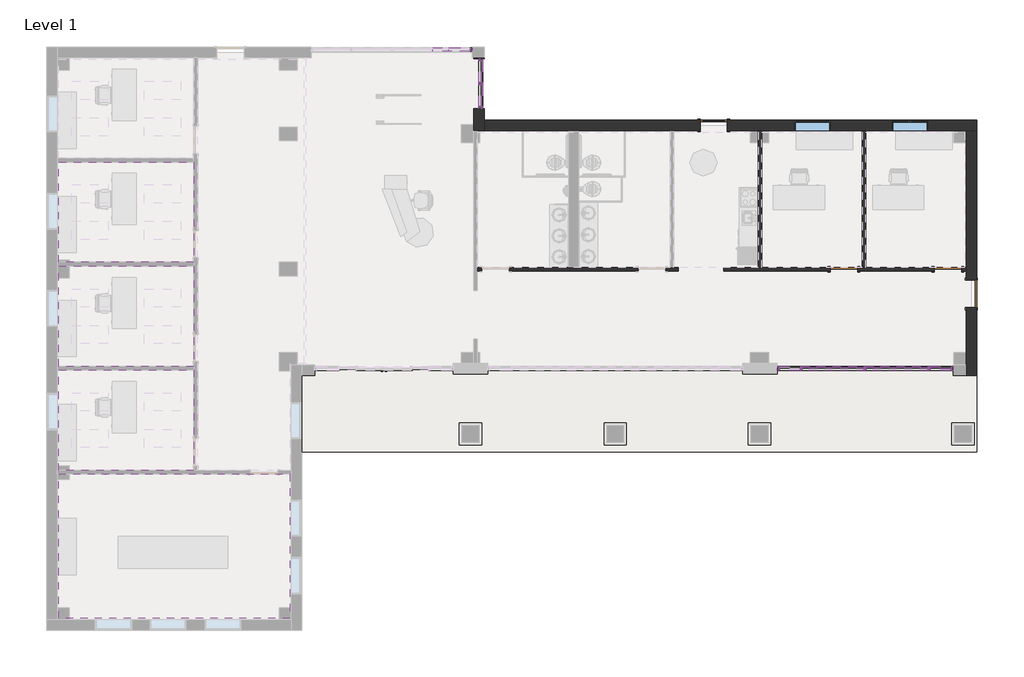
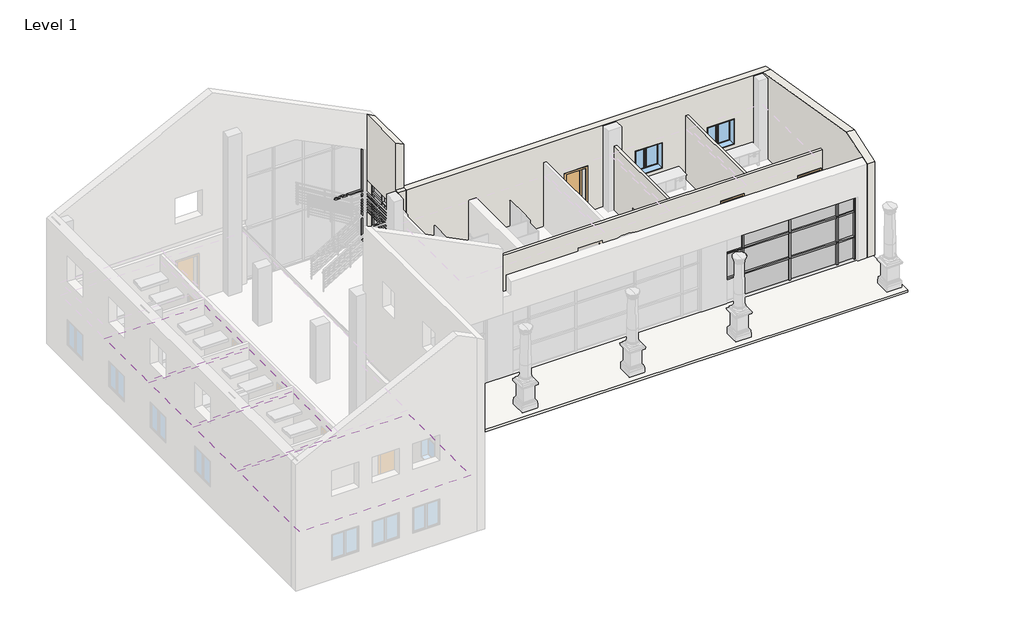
# One storey, part 3 of 8: 43 members, 14 plates, 6 walls, 4 coverings, 4 doors, 2 windows, 1 slab.
"""IFC4 building model written with IfcOpenShell, lengths in millimetres."""

from ifc_helpers import new_model, si_unit, point, frame, origin, origin_with_axes, place, context, project, spatial, polyline, ellipse_curve, trimmed, outline, extrude, faceted_brep, transform, mapped, element, save
from ifc_brep_helpers import plane_surface, extruded_surface, advanced_brep
from components import door_cc5399a4, door_88503111, door_14e9a3b2, member_a715cb85, member_2b49869a, member_4f1c84db, member_c7c5a8a0, member_a43dcf29, member_c4de40ee, member_75074519, member_13dc6413, member_3374d9b6, member_c17f1be2, member_b955a9e9, member_f0fea5a5, member_6e77e263, member_ee409385, member_47bfaf8a, member_ba1b3d85, member_3a0a7659, member_7b995701, member_54c8a699, member_3ba4cfb8, system_panel_glazed_93fe6fa7, system_panel_glazed_6ce5e085, system_panel_glazed_7b5ce646, system_panel_glazed_6c402c5f, system_panel_glazed_28aac04d, system_panel_glazed_b46f0795, system_panel_glazed_65d20654, system_panel_glazed_bd012a69, system_panel_solid_70661cca, window_75435c65

model = new_model("IFC4")

# Units and contexts
model_context = context("Model", 3, world=origin())
ifc_project = project(units=[si_unit("LENGTHUNIT", "METRE", prefix="MILLI")], contexts=[model_context])

# Site, building, storey
site = spatial("IfcSite", under=ifc_project)
building = spatial("IfcBuilding", under=site)
storey = spatial("IfcBuildingStorey", under=building, Name="Level 1", Elevation=0.0)

# Coverings
placement = place(None, origin())
element("IfcCovering", 1, ObjectType="2' x 4' ACT System", at=placement, inside=storey, context=model_context, shape_type="SweptSolid", body=[
    extrude(outline(polyline([(-13532.9016552, 7087.3730424), (-9011.7016552, 7087.3730424), (-9011.7016552, 3729.8105424), (-13532.9016552, 3729.8105424), (-13532.9016552, 7087.3730424)]), holes=[polyline([(-11881.9016552, 5713.3917924), (-11881.9016552, 6322.9917924), (-13101.1016552, 6322.9917924), (-13101.1016552, 5713.3917924), (-11881.9016552, 5713.3917924)]), polyline([(-10662.7016552, 5713.3917924), (-9443.5016552, 5713.3917924), (-9443.5016552, 6322.9917924), (-10662.7016552, 6322.9917924), (-10662.7016552, 5713.3917924)]), polyline([(-10662.7016552, 4494.1917924), (-9443.5016552, 4494.1917924), (-9443.5016552, 5103.7917924), (-10662.7016552, 5103.7917924), (-10662.7016552, 4494.1917924)]), polyline([(-11881.9016552, 5103.7917924), (-13101.1016552, 5103.7917924), (-13101.1016552, 4494.1917924), (-11881.9016552, 4494.1917924), (-11881.9016552, 5103.7917924)])]), frame((0.0, 0.0, 2438.4), z_axis=(0.0, 0.0, 1.0), x_axis=(1.0, 0.0, 0.0)), (0.0, 0.0, 1.0), 57.15),
])
element("IfcCovering", 2, ObjectType="2' x 4' ACT System", at=placement, inside=storey, context=model_context, shape_type="SweptSolid", body=[
    extrude(outline(polyline([(-13532.9016552, 3605.9855424), (-9011.7016552, 3605.9855424), (-9011.7016552, 248.4230424), (-13532.9016552, 248.4230424), (-13532.9016552, 3605.9855424)]), holes=[polyline([(-11881.9016552, 2232.0042924), (-11881.9016552, 2841.6042924), (-13101.1016552, 2841.6042924), (-13101.1016552, 2232.0042924), (-11881.9016552, 2232.0042924)]), polyline([(-10662.7016552, 2232.0042924), (-9443.5016552, 2232.0042924), (-9443.5016552, 2841.6042924), (-10662.7016552, 2841.6042924), (-10662.7016552, 2232.0042924)]), polyline([(-10662.7016552, 1012.8042924), (-9443.5016552, 1012.8042924), (-9443.5016552, 1622.4042924), (-10662.7016552, 1622.4042924), (-10662.7016552, 1012.8042924)]), polyline([(-11881.9016552, 1622.4042924), (-13101.1016552, 1622.4042924), (-13101.1016552, 1012.8042924), (-11881.9016552, 1012.8042924), (-11881.9016552, 1622.4042924)])]), frame((0.0, 0.0, 2438.4), z_axis=(0.0, 0.0, 1.0), x_axis=(1.0, 0.0, 0.0)), (0.0, 0.0, 1.0), 57.15),
])
element("IfcCovering", 3, ObjectType="2' x 4' ACT System", at=placement, inside=storey, context=model_context, shape_type="SweptSolid", body=[
    extrude(outline(polyline([(-13532.9016552, 124.5980424), (-9011.7016552, 124.5980424), (-9011.7016552, -3232.9644576), (-13532.9016552, -3232.9644576), (-13532.9016552, 124.5980424)]), holes=[polyline([(-11881.9016552, -1249.3832076), (-11881.9016552, -639.7832076), (-13101.1016552, -639.7832076), (-13101.1016552, -1249.3832076), (-11881.9016552, -1249.3832076)]), polyline([(-10662.7016552, -1249.3832076), (-9443.5016552, -1249.3832076), (-9443.5016552, -639.7832076), (-10662.7016552, -639.7832076), (-10662.7016552, -1249.3832076)]), polyline([(-10662.7016552, -2468.5832076), (-9443.5016552, -2468.5832076), (-9443.5016552, -1858.9832076), (-10662.7016552, -1858.9832076), (-10662.7016552, -2468.5832076)]), polyline([(-11881.9016552, -1858.9832076), (-13101.1016552, -1858.9832076), (-13101.1016552, -2468.5832076), (-11881.9016552, -2468.5832076), (-11881.9016552, -1858.9832076)])]), frame((0.0, 0.0, 2438.4), z_axis=(0.0, 0.0, 1.0), x_axis=(1.0, 0.0, 0.0)), (0.0, 0.0, 1.0), 57.15),
])
element("IfcCovering", 4, ObjectType="5/8\" GWB on Mtl. Stud", at=placement, inside=storey, context=model_context, shape_type="SweptSolid", body=[
    extrude(outline(polyline([(-13532.9016552, -3356.7894576), (-5804.9516552, -3356.7894576), (-5804.9516552, -8182.7894576), (-13532.9016552, -8182.7894576), (-13532.9016552, -3356.7894576)])), frame((0.0, 0.0, 2438.4), z_axis=(0.0, 0.0, 1.0), x_axis=(1.0, 0.0, 0.0)), (0.0, 0.0, 1.0), 107.95),
])

# Doors
door_shape = door_cc5399a4(model_context)
element("IfcDoor", 5, ObjectType="Single-Flush : 36\" x 84\"", at=placement, inside=storey, context=model_context, shape_type="MappedRepresentation", body=[
    mapped(door_shape, transform((16977.2608448, 2672.5355424, 0.0), x_axis=(0.0, 1.0, 0.0), y_axis=(-1.0, 0.0, 0.0), z_axis=(0.0, 0.0, 1.0))),
])
door_2_shape = door_88503111(model_context)
element("IfcDoor", 6, ObjectType="Single-Flush : 36\" x 84\"", at=placement, inside=storey, context=model_context, shape_type="MappedRepresentation", body=[
    mapped(door_2_shape, transform((16191.4483448, 3496.4480424, 0.0), x_axis=(1.0, 0.0, 0.0), y_axis=(0.0, 1.0, 0.0), z_axis=(0.0, 0.0, 1.0))),
])
element("IfcDoor", 7, ObjectType="Single-Flush : 36\" x 84\"", at=placement, inside=storey, context=model_context, shape_type="MappedRepresentation", body=[
    mapped(door_2_shape, transform((12714.8233448, 3496.4480424, 0.0), x_axis=(1.0, 0.0, 0.0), y_axis=(0.0, 1.0, 0.0), z_axis=(0.0, 0.0, 1.0))),
])
door_3_shape = door_14e9a3b2(model_context)
element("IfcDoor", 8, ObjectType="Single-Glass 1 : 36\" x 84\"", at=placement, inside=storey, context=model_context, shape_type="MappedRepresentation", body=[
    mapped(door_3_shape, transform((8365.0733448, 8306.5730424, 0.0), x_axis=(1.0, 0.0, 0.0), y_axis=(0.0, 1.0, 0.0), z_axis=(0.0, 0.0, 1.0))),
])

# Members
member_shape = member_a715cb85(model_context)
element("IfcMember", 9, ObjectType="Rectangular Mullion : 2.5\" x 5\" Rectangular", at=placement, inside=storey, context=model_context, shape_type="MappedRepresentation", body=[
    mapped(member_shape, transform((10519.3108448, 175.3980424, 0.0), x_axis=(1.0, 0.0, 0.0), y_axis=(0.0, -1.0, 0.0), z_axis=(0.0, 0.0, -1.0))),
])
element("IfcMember", 10, ObjectType="Rectangular Mullion : 2.5\" x 5\" Rectangular", at=placement, inside=storey, context=model_context, shape_type="MappedRepresentation", body=[
    mapped(member_shape, transform((11281.3108448, 175.3980424, 0.0), x_axis=(1.0, 0.0, 0.0), y_axis=(0.0, -1.0, 0.0), z_axis=(0.0, 0.0, -1.0))),
])
element("IfcMember", 11, ObjectType="Rectangular Mullion : 2.5\" x 5\" Rectangular", at=placement, inside=storey, context=model_context, shape_type="MappedRepresentation", body=[
    mapped(member_shape, transform((13414.9108448, 175.3980424, 0.0), x_axis=(1.0, 0.0, 0.0), y_axis=(0.0, -1.0, 0.0), z_axis=(0.0, 0.0, -1.0))),
])
element("IfcMember", 12, ObjectType="Rectangular Mullion : 2.5\" x 5\" Rectangular", at=placement, inside=storey, context=model_context, shape_type="MappedRepresentation", body=[
    mapped(member_shape, transform((15548.5108448, 175.3980424, 0.0), x_axis=(1.0, 0.0, 0.0), y_axis=(0.0, -1.0, 0.0), z_axis=(0.0, 0.0, -1.0))),
])
member_2_shape = member_2b49869a(model_context)
element("IfcMember", 13, ObjectType="Rectangular Mullion : 2.5\" x 5\" Rectangular", at=placement, inside=storey, context=model_context, shape_type="MappedRepresentation", body=[
    mapped(member_2_shape, transform((10519.3108448, 175.3980424, 1066.8), x_axis=(1.0, 0.0, 0.0), y_axis=(0.0, -1.0, 0.0), z_axis=(0.0, 0.0, -1.0))),
])
element("IfcMember", 14, ObjectType="Rectangular Mullion : 2.5\" x 5\" Rectangular", at=placement, inside=storey, context=model_context, shape_type="MappedRepresentation", body=[
    mapped(member_2_shape, transform((11281.3108448, 175.3980424, 1066.8), x_axis=(1.0, 0.0, 0.0), y_axis=(0.0, -1.0, 0.0), z_axis=(0.0, 0.0, -1.0))),
])
element("IfcMember", 15, ObjectType="Rectangular Mullion : 2.5\" x 5\" Rectangular", at=placement, inside=storey, context=model_context, shape_type="MappedRepresentation", body=[
    mapped(member_2_shape, transform((13414.9108448, 175.3980424, 1066.8), x_axis=(1.0, 0.0, 0.0), y_axis=(0.0, -1.0, 0.0), z_axis=(0.0, 0.0, -1.0))),
])
element("IfcMember", 16, ObjectType="Rectangular Mullion : 2.5\" x 5\" Rectangular", at=placement, inside=storey, context=model_context, shape_type="MappedRepresentation", body=[
    mapped(member_2_shape, transform((15548.5108448, 175.3980424, 1066.8), x_axis=(1.0, 0.0, 0.0), y_axis=(0.0, -1.0, 0.0), z_axis=(0.0, 0.0, -1.0))),
])
member_3_shape = member_4f1c84db(model_context)
element("IfcMember", 17, ObjectType="Rectangular Mullion : 2.5\" x 5\" Rectangular", at=placement, inside=storey, context=model_context, shape_type="MappedRepresentation", body=[
    mapped(member_3_shape, transform((15516.7608448, 175.3980424, 2286.0), x_axis=(0.0, 0.0, 1.0), y_axis=(0.0, -1.0, 0.0), z_axis=(1.0, 0.0, 0.0))),
])
element("IfcMember", 18, ObjectType="Rectangular Mullion : 2.5\" x 5\" Rectangular", at=placement, inside=storey, context=model_context, shape_type="MappedRepresentation", body=[
    mapped(member_3_shape, transform((13383.1608448, 175.3980424, 2286.0), x_axis=(0.0, 0.0, 1.0), y_axis=(0.0, -1.0, 0.0), z_axis=(1.0, 0.0, 0.0))),
])
element("IfcMember", 19, ObjectType="Rectangular Mullion : 2.5\" x 5\" Rectangular", at=placement, inside=storey, context=model_context, shape_type="MappedRepresentation", body=[
    mapped(member_3_shape, transform((13383.1608448, 175.3980424, 1066.8), x_axis=(0.0, 0.0, 1.0), y_axis=(0.0, -1.0, 0.0), z_axis=(1.0, 0.0, 0.0))),
])
element("IfcMember", 20, ObjectType="Rectangular Mullion : 2.5\" x 5\" Rectangular", at=placement, inside=storey, context=model_context, shape_type="MappedRepresentation", body=[
    mapped(member_3_shape, transform((15516.7608448, 175.3980424, 1066.8), x_axis=(0.0, 0.0, 1.0), y_axis=(0.0, -1.0, 0.0), z_axis=(1.0, 0.0, 0.0))),
])
member_4_shape = member_c7c5a8a0(model_context)
element("IfcMember", 21, ObjectType="Rectangular Mullion : 2.5\" x 5\" Rectangular", at=placement, inside=storey, context=model_context, shape_type="MappedRepresentation", body=[
    mapped(member_4_shape, transform((11249.5608448, 175.3980424, 2286.0), x_axis=(0.0, 0.0, 1.0), y_axis=(0.0, -1.0, 0.0), z_axis=(1.0, 0.0, 0.0))),
])
element("IfcMember", 22, ObjectType="Rectangular Mullion : 2.5\" x 5\" Rectangular", at=placement, inside=storey, context=model_context, shape_type="MappedRepresentation", body=[
    mapped(member_4_shape, transform((11249.5608448, 175.3980424, 1066.8), x_axis=(0.0, 0.0, 1.0), y_axis=(0.0, -1.0, 0.0), z_axis=(1.0, 0.0, 0.0))),
])
member_5_shape = member_a43dcf29(model_context)
element("IfcMember", 23, ObjectType="Rectangular Mullion : 2.5\" x 5\" Rectangular", at=placement, inside=storey, context=model_context, shape_type="MappedRepresentation", body=[
    mapped(member_5_shape, transform((16304.1608448, 175.3980424, 2286.0), x_axis=(0.0, 0.0, 1.0), y_axis=(0.0, -1.0, 0.0), z_axis=(1.0, 0.0, 0.0))),
])
element("IfcMember", 24, ObjectType="Rectangular Mullion : 2.5\" x 5\" Rectangular", at=placement, inside=storey, context=model_context, shape_type="MappedRepresentation", body=[
    mapped(member_5_shape, transform((16304.1608448, 175.3980424, 1066.8), x_axis=(0.0, 0.0, 1.0), y_axis=(0.0, -1.0, 0.0), z_axis=(1.0, 0.0, 0.0))),
])
member_6_shape = member_c4de40ee(model_context)
element("IfcMember", 25, ObjectType="Rectangular Mullion : 2.5\" x 5\" Rectangular", at=placement, inside=storey, context=model_context, shape_type="MappedRepresentation", body=[
    mapped(member_6_shape, transform((16367.6608448, 175.3980424, 0.0), x_axis=(1.0, 0.0, 0.0), y_axis=(0.0, -1.0, 0.0), z_axis=(0.0, 0.0, -1.0))),
])
member_7_shape = member_75074519(model_context)
element("IfcMember", 26, ObjectType="Rectangular Mullion : 2.5\" x 5\" Rectangular", at=placement, inside=storey, context=model_context, shape_type="MappedRepresentation", body=[
    mapped(member_7_shape, transform((16367.6608448, 175.3980424, 1066.8), x_axis=(1.0, 0.0, 0.0), y_axis=(0.0, -1.0, 0.0), z_axis=(0.0, 0.0, -1.0))),
])
element("IfcMember", 27, ObjectType="Rectangular Mullion : 2.5\" x 5\" Rectangular", at=placement, inside=storey, context=model_context, shape_type="MappedRepresentation", body=[
    mapped(member_4_shape, transform((10519.3108448, 175.3980424, 2286.0), x_axis=(1.0, 0.0, 0.0), y_axis=(0.0, -1.0, 0.0), z_axis=(0.0, 0.0, -1.0))),
])
element("IfcMember", 28, ObjectType="Rectangular Mullion : 2.5\" x 5\" Rectangular", at=placement, inside=storey, context=model_context, shape_type="MappedRepresentation", body=[
    mapped(member_4_shape, transform((11281.3108448, 175.3980424, 2286.0), x_axis=(1.0, 0.0, 0.0), y_axis=(0.0, -1.0, 0.0), z_axis=(0.0, 0.0, -1.0))),
])
element("IfcMember", 29, ObjectType="Rectangular Mullion : 2.5\" x 5\" Rectangular", at=placement, inside=storey, context=model_context, shape_type="MappedRepresentation", body=[
    mapped(member_4_shape, transform((13414.9108448, 175.3980424, 2286.0), x_axis=(1.0, 0.0, 0.0), y_axis=(0.0, -1.0, 0.0), z_axis=(0.0, 0.0, -1.0))),
])
element("IfcMember", 30, ObjectType="Rectangular Mullion : 2.5\" x 5\" Rectangular", at=placement, inside=storey, context=model_context, shape_type="MappedRepresentation", body=[
    mapped(member_4_shape, transform((15548.5108448, 175.3980424, 2286.0), x_axis=(1.0, 0.0, 0.0), y_axis=(0.0, -1.0, 0.0), z_axis=(0.0, 0.0, -1.0))),
])
member_8_shape = member_13dc6413(model_context)
element("IfcMember", 31, ObjectType="Rectangular Mullion : 2.5\" x 5\" Rectangular", at=placement, inside=storey, context=model_context, shape_type="MappedRepresentation", body=[
    mapped(member_8_shape, transform((11281.3108448, 175.3980424, 3048.0), x_axis=(0.0, 0.0, 1.0), y_axis=(0.0, -1.0, 0.0), z_axis=(1.0, 0.0, 0.0))),
])
member_9_shape = member_3374d9b6(model_context)
element("IfcMember", 32, ObjectType="Rectangular Mullion : 2.5\" x 5\" Rectangular", at=placement, inside=storey, context=model_context, shape_type="MappedRepresentation", body=[
    mapped(member_9_shape, transform((15548.5108448, 175.3980424, 3048.0), x_axis=(0.0, 0.0, 1.0), y_axis=(0.0, -1.0, 0.0), z_axis=(1.0, 0.0, 0.0))),
])
element("IfcMember", 33, ObjectType="Rectangular Mullion : 2.5\" x 5\" Rectangular", at=placement, inside=storey, context=model_context, shape_type="MappedRepresentation", body=[
    mapped(member_9_shape, transform((13414.9108448, 175.3980424, 3048.0), x_axis=(0.0, 0.0, 1.0), y_axis=(0.0, -1.0, 0.0), z_axis=(1.0, 0.0, 0.0))),
])
member_10_shape = member_c17f1be2(model_context)
element("IfcMember", 34, ObjectType="Rectangular Mullion : 2.5\" x 5\" Rectangular", at=placement, inside=storey, context=model_context, shape_type="MappedRepresentation", body=[
    mapped(member_10_shape, transform((16367.6608448, 175.3980424, 3048.0), x_axis=(0.0, 0.0, 1.0), y_axis=(0.0, -1.0, 0.0), z_axis=(1.0, 0.0, 0.0))),
])
member_11_shape = member_b955a9e9(model_context)
element("IfcMember", 35, ObjectType="Rectangular Mullion : 2.5\" x 5\" Rectangular", at=placement, inside=storey, context=model_context, shape_type="MappedRepresentation", body=[
    mapped(member_11_shape, transform((16367.6608448, 175.3980424, 2286.0), x_axis=(1.0, 0.0, 0.0), y_axis=(0.0, -1.0, 0.0), z_axis=(0.0, 0.0, -1.0))),
])
member_12_shape = member_f0fea5a5(model_context)
element("IfcMember", 36, ObjectType="Rectangular Mullion : 2.5\" x 5\" Rectangular", at=placement, inside=storey, context=model_context, shape_type="MappedRepresentation", body=[
    mapped(member_12_shape, transform((581.5608448, 9701.9855424, 0.0), x_axis=(0.0, -1.0, 0.0), y_axis=(-1.0, 0.0, 0.0), z_axis=(0.0, 0.0, -1.0))),
])
member_13_shape = member_6e77e263(model_context)
element("IfcMember", 37, ObjectType="Rectangular Mullion : 2.5\" x 5\" Rectangular", at=placement, inside=storey, context=model_context, shape_type="MappedRepresentation", body=[
    mapped(member_13_shape, transform((581.5608448, 9701.9855424, 2438.4), x_axis=(0.0, -1.0, 0.0), y_axis=(-1.0, 0.0, 0.0), z_axis=(0.0, 0.0, -1.0))),
])
member_14_shape = member_ee409385(model_context)
element("IfcMember", 38, ObjectType="Rectangular Mullion : 2.5\" x 5\" Rectangular", at=placement, inside=storey, context=model_context, shape_type="MappedRepresentation", body=[
    mapped(member_14_shape, transform((291.0483448, 10846.5730424, 0.0), x_axis=(1.0, 0.0, 0.0), y_axis=(0.0, -1.0, 0.0), z_axis=(0.0, 0.0, -1.0))),
])
element("IfcMember", 39, ObjectType="Rectangular Mullion : 2.5\" x 5\" Rectangular", at=placement, inside=storey, context=model_context, shape_type="MappedRepresentation", body=[
    mapped(member_14_shape, transform((581.5608448, 8863.7855424, 0.0), x_axis=(0.0, -1.0, 0.0), y_axis=(-1.0, 0.0, 0.0), z_axis=(0.0, 0.0, -1.0))),
])
member_15_shape = member_47bfaf8a(model_context)
element("IfcMember", 40, ObjectType="Rectangular Mullion : 2.5\" x 5\" Rectangular", at=placement, inside=storey, context=model_context, shape_type="MappedRepresentation", body=[
    mapped(member_15_shape, transform((581.5608448, 8863.7855424, 2438.4), x_axis=(0.0, -1.0, 0.0), y_axis=(-1.0, 0.0, 0.0), z_axis=(0.0, 0.0, -1.0))),
])
element("IfcMember", 41, ObjectType="Rectangular Mullion : 2.5\" x 5\" Rectangular", at=placement, inside=storey, context=model_context, shape_type="MappedRepresentation", body=[
    mapped(member_15_shape, transform((581.5608448, 10540.1855424, 3048.0), x_axis=(0.0, 1.0, 0.0), y_axis=(-1.0, 0.0, 0.0), z_axis=(0.0, 0.0, 1.0))),
])
element("IfcMember", 42, ObjectType="Rectangular Mullion : 2.5\" x 5\" Rectangular", at=placement, inside=storey, context=model_context, shape_type="MappedRepresentation", body=[
    mapped(member_14_shape, transform((581.5608448, 10540.1855424, 2438.4), x_axis=(0.0, 1.0, 0.0), y_axis=(-1.0, 0.0, 0.0), z_axis=(0.0, 0.0, 1.0))),
])
member_16_shape = member_ba1b3d85(model_context)
element("IfcMember", 43, ObjectType="Rectangular Mullion : 2.5\" x 5\" Rectangular", at=placement, inside=storey, context=model_context, shape_type="MappedRepresentation", body=[
    mapped(member_16_shape, transform((227.5483448, 10846.5730424, 2438.4), x_axis=(0.0, 0.0, 1.0), y_axis=(0.0, -1.0, 0.0), z_axis=(1.0, 0.0, 0.0))),
])
member_17_shape = member_3a0a7659(model_context)
element("IfcMember", 44, ObjectType="Rectangular Mullion : 2.5\" x 5\" Rectangular", at=placement, inside=storey, context=model_context, shape_type="MappedRepresentation", body=[
    mapped(member_17_shape, transform((581.5608448, 8927.2855424, 3048.0), x_axis=(0.0, 0.0, 1.0), y_axis=(-1.0, 0.0, 0.0), z_axis=(0.0, -1.0, 0.0))),
])
element("IfcMember", 45, ObjectType="Rectangular Mullion : 2.5\" x 5\" Rectangular", at=placement, inside=storey, context=model_context, shape_type="MappedRepresentation", body=[
    mapped(member_17_shape, transform((581.5608448, 9733.7355424, 3048.0), x_axis=(0.0, 0.0, 1.0), y_axis=(-1.0, 0.0, 0.0), z_axis=(0.0, -1.0, 0.0))),
])
element("IfcMember", 46, ObjectType="Rectangular Mullion : 2.5\" x 5\" Rectangular", at=placement, inside=storey, context=model_context, shape_type="MappedRepresentation", body=[
    mapped(member_17_shape, transform((581.5608448, 10476.6855424, 0.0), x_axis=(0.0, 0.0, -1.0), y_axis=(-1.0, 0.0, 0.0), z_axis=(0.0, 1.0, 0.0))),
])
element("IfcMember", 47, ObjectType="Rectangular Mullion : 2.5\" x 5\" Rectangular", at=placement, inside=storey, context=model_context, shape_type="MappedRepresentation", body=[
    mapped(member_17_shape, transform((581.5608448, 9670.2355424, 0.0), x_axis=(0.0, 0.0, -1.0), y_axis=(-1.0, 0.0, 0.0), z_axis=(0.0, 1.0, 0.0))),
])
member_18_shape = member_7b995701(model_context)
element("IfcMember", 48, ObjectType="Rectangular Mullion : 2.5\" x 5\" Rectangular", at=placement, inside=storey, context=model_context, shape_type="MappedRepresentation", body=[
    mapped(member_18_shape, transform((581.5608448, 9733.7355424, 2438.4), x_axis=(0.0, 0.0, 1.0), y_axis=(-1.0, 0.0, 0.0), z_axis=(0.0, -1.0, 0.0))),
])
element("IfcMember", 49, ObjectType="Rectangular Mullion : 2.5\" x 5\" Rectangular", at=placement, inside=storey, context=model_context, shape_type="MappedRepresentation", body=[
    mapped(member_18_shape, transform((581.5608448, 8927.2855424, 2438.4), x_axis=(0.0, 0.0, 1.0), y_axis=(-1.0, 0.0, 0.0), z_axis=(0.0, -1.0, 0.0))),
])
member_19_shape = member_54c8a699(model_context)
element("IfcMember", 50, ObjectType="Rectangular Mullion : 2.5\" x 5\" Rectangular", at=placement, inside=storey, context=model_context, shape_type="MappedRepresentation", body=[
    mapped(member_19_shape, transform((291.0483448, 10846.5730424, 4500.0662011), x_axis=(0.44721359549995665, 0.0, 0.8944271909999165), y_axis=(0.0, -1.0, 0.0), z_axis=(0.8944271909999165, 0.0, -0.44721359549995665))),
])
member_20_shape = member_3ba4cfb8(model_context)
element("IfcMember", 51, ObjectType="Rectangular Mullion : 2.5\" x 5\" Rectangular", at=placement, inside=storey, context=model_context, shape_type="MappedRepresentation", body=[
    mapped(member_20_shape, transform((291.0483448, 10846.5730424, 2438.4), x_axis=(1.0, 0.0, 0.0), y_axis=(0.0, -1.0, 0.0), z_axis=(0.0, 0.0, -1.0))),
])

# Plates
system_panel_glazed_shape = system_panel_glazed_93fe6fa7(model_context)
element("IfcPlate", 52, ObjectType="System Panel : Glazed", at=placement, inside=storey, context=model_context, shape_type="MappedRepresentation", body=[
    mapped(system_panel_glazed_shape, transform((12348.1108448, 175.3980424, 0.0), x_axis=(1.0, 0.0, 0.0), y_axis=(0.0, 1.0, 0.0), z_axis=(0.0, 0.0, 1.0))),
])
element("IfcPlate", 53, ObjectType="System Panel : Glazed", at=placement, inside=storey, context=model_context, shape_type="MappedRepresentation", body=[
    mapped(system_panel_glazed_shape, transform((14481.7108448, 175.3980424, 0.0), x_axis=(1.0, 0.0, 0.0), y_axis=(0.0, 1.0, 0.0), z_axis=(0.0, 0.0, 1.0))),
])
system_panel_glazed_2_shape = system_panel_glazed_6ce5e085(model_context)
element("IfcPlate", 54, ObjectType="System Panel : Glazed", at=placement, inside=storey, context=model_context, shape_type="MappedRepresentation", body=[
    mapped(system_panel_glazed_2_shape, transform((12348.1108448, 175.3980424, 1098.55), x_axis=(1.0, 0.0, 0.0), y_axis=(0.0, 1.0, 0.0), z_axis=(0.0, 0.0, 1.0))),
])
element("IfcPlate", 55, ObjectType="System Panel : Glazed", at=placement, inside=storey, context=model_context, shape_type="MappedRepresentation", body=[
    mapped(system_panel_glazed_2_shape, transform((14481.7108448, 175.3980424, 1098.55), x_axis=(1.0, 0.0, 0.0), y_axis=(0.0, 1.0, 0.0), z_axis=(0.0, 0.0, 1.0))),
])
system_panel_glazed_3_shape = system_panel_glazed_7b5ce646(model_context)
element("IfcPlate", 56, ObjectType="System Panel : Glazed", at=placement, inside=storey, context=model_context, shape_type="MappedRepresentation", body=[
    mapped(system_panel_glazed_3_shape, transform((10900.3108448, 175.3980424, 1098.55), x_axis=(1.0, 0.0, 0.0), y_axis=(0.0, 1.0, 0.0), z_axis=(0.0, 0.0, 1.0))),
])
system_panel_glazed_4_shape = system_panel_glazed_6c402c5f(model_context)
element("IfcPlate", 57, ObjectType="System Panel : Glazed", at=placement, inside=storey, context=model_context, shape_type="MappedRepresentation", body=[
    mapped(system_panel_glazed_4_shape, transform((15942.2108448, 175.3980424, 0.0), x_axis=(1.0, 0.0, 0.0), y_axis=(0.0, 1.0, 0.0), z_axis=(0.0, 0.0, 1.0))),
])
system_panel_glazed_5_shape = system_panel_glazed_28aac04d(model_context)
element("IfcPlate", 58, ObjectType="System Panel : Glazed", at=placement, inside=storey, context=model_context, shape_type="MappedRepresentation", body=[
    mapped(system_panel_glazed_5_shape, transform((15942.2108448, 175.3980424, 1098.55), x_axis=(1.0, 0.0, 0.0), y_axis=(0.0, 1.0, 0.0), z_axis=(0.0, 0.0, 1.0))),
])
system_panel_glazed_6_shape = system_panel_glazed_b46f0795(model_context)
element("IfcPlate", 59, ObjectType="System Panel : Glazed", at=placement, inside=storey, context=model_context, shape_type="MappedRepresentation", body=[
    mapped(system_panel_glazed_6_shape, transform((12348.1108448, 175.3980424, 2317.75), x_axis=(1.0, 0.0, 0.0), y_axis=(0.0, 1.0, 0.0), z_axis=(0.0, 0.0, 1.0))),
])
element("IfcPlate", 60, ObjectType="System Panel : Glazed", at=placement, inside=storey, context=model_context, shape_type="MappedRepresentation", body=[
    mapped(system_panel_glazed_6_shape, transform((14481.7108448, 175.3980424, 2317.75), x_axis=(1.0, 0.0, 0.0), y_axis=(0.0, 1.0, 0.0), z_axis=(0.0, 0.0, 1.0))),
])
system_panel_glazed_7_shape = system_panel_glazed_65d20654(model_context)
element("IfcPlate", 61, ObjectType="System Panel : Glazed", at=placement, inside=storey, context=model_context, shape_type="MappedRepresentation", body=[
    mapped(system_panel_glazed_7_shape, transform((581.5608448, 10105.2105424, 63.5), x_axis=(0.0, -1.0, 0.0), y_axis=(1.0, 0.0, 0.0), z_axis=(0.0, 0.0, 1.0))),
])
element("IfcPlate", 62, ObjectType="System Panel : Glazed", at=placement, inside=storey, context=model_context, shape_type="MappedRepresentation", body=[
    mapped(system_panel_glazed_7_shape, transform((581.5608448, 9298.7605424, 63.5), x_axis=(0.0, -1.0, 0.0), y_axis=(1.0, 0.0, 0.0), z_axis=(0.0, 0.0, 1.0))),
])
system_panel_glazed_8_shape = system_panel_glazed_bd012a69(model_context)
element("IfcPlate", 63, ObjectType="System Panel : Glazed", at=placement, inside=storey, context=model_context, shape_type="MappedRepresentation", body=[
    mapped(system_panel_glazed_8_shape, transform((581.5608448, 10105.2105424, 2470.15), x_axis=(0.0, -1.0, 0.0), y_axis=(1.0, 0.0, 0.0), z_axis=(0.0, 0.0, 1.0))),
])
element("IfcPlate", 64, ObjectType="System Panel : Glazed", at=placement, inside=storey, context=model_context, shape_type="MappedRepresentation", body=[
    mapped(system_panel_glazed_8_shape, transform((581.5608448, 9298.7605424, 2470.15), x_axis=(0.0, -1.0, 0.0), y_axis=(1.0, 0.0, 0.0), z_axis=(0.0, 0.0, 1.0))),
])
system_panel_solid_shape = system_panel_solid_70661cca(model_context)
element("IfcPlate", 65, ObjectType="System Panel : Solid", at=placement, inside=storey, context=model_context, shape_type="MappedRepresentation", body=[
    mapped(system_panel_solid_shape, transform((15942.2108448, 175.3980424, 2317.75), x_axis=(1.0, 0.0, 0.0), y_axis=(0.0, 1.0, 0.0), z_axis=(0.0, 0.0, 1.0))),
])

# Slab
element("IfcSlab", 66, ObjectType="4\" Concrete Slab", at=placement, inside=storey, context=model_context, shape_type="SweptSolid", body=[
    extrude(outline(polyline([(17153.4733448, 124.5980424), (17153.4733448, -2618.6019576), (-5401.7266552, -2618.6019576), (-5401.7266552, 124.5980424), (17153.4733448, 124.5980424)])), frame((0.0, 0.0, -203.2), z_axis=(0.0, 0.0, 1.0), x_axis=(1.0, 0.0, 0.0)), (0.0, 0.0, 1.0), 101.6),
])

# Walls
element("IfcWall", 67, ObjectType="Exterior - Brick on Mtl. Stud", at=placement, inside=storey, context=model_context, shape_type="Brep", body=[
    faceted_brep([(341.8483448, 8306.5730424, 6178.55), (341.8483448, 10568.7605424, 6178.55), (341.8483448, 10568.7605424, 0.0), (341.8483448, 10540.1855424, 0.0), (341.8483448, 10540.1855424, 3048.0), (341.8483448, 8863.7855424, 3048.0), (341.8483448, 8863.7855424, 0.0), (341.8483448, 8333.5605424, 0.0), (341.8483448, 8130.3605424, 0.0), (341.8483448, 8130.3605424, 3048.0), (341.8483448, 8130.3605424, 3919.5375), (341.8483448, 8306.5730424, 3919.5375), (694.2733448, 10568.7605424, 6002.3375), (694.2733448, 8306.5730424, 6002.3375), (694.2733448, 8306.5730424, 3919.5375), (694.2733448, 8130.3605424, 3919.5375), (694.2733448, 8130.3605424, 3048.0), (694.2733448, 8130.3605424, 0.0), (694.2733448, 8482.7855424, 0.0), (694.2733448, 8863.7855424, 0.0), (694.2733448, 8863.7855424, 3048.0), (694.2733448, 10540.1855424, 3048.0), (694.2733448, 10540.1855424, 0.0), (694.2733448, 10568.7605424, 0.0), (541.8733448, 8130.3605424, 0.0), (465.6733448, 8130.3605424, 0.0)], [[[0, 1, 2, 3, 4, 5, 6, 7, 8, 9, 10, 11]], [[12, 13, 14, 15, 16, 17, 18, 19, 20, 21, 22, 23]], [[2, 23, 22, 3]], [[17, 24, 25, 8, 7, 6, 19, 18]], [[1, 0, 13, 12]], [[13, 0, 11, 14]], [[14, 11, 10, 15]], [[8, 25, 24, 17, 16, 15, 10, 9]], [[2, 1, 12, 23]], [[21, 4, 3, 22]], [[4, 21, 20, 5]], [[5, 20, 19, 6]]]),
])
element("IfcWall", 68, ObjectType="Exterior - Brick on Mtl. Stud", at=placement, inside=storey, context=model_context, shape_type="Brep", body=[
    faceted_brep([(8822.2733448, 8130.3605424, 2133.6), (8822.2733448, 8130.3605424, 0.0), (9587.4483448, 8130.3605424, 0.0), (9847.7983448, 8130.3605424, 0.0), (9971.6233448, 8130.3605424, 0.0), (10197.0483448, 8130.3605424, 0.0), (13324.4233448, 8130.3605424, 0.0), (13448.2483448, 8130.3605424, 0.0), (16394.6483448, 8130.3605424, 0.0), (16801.0483448, 8130.3605424, 0.0), (17153.4733448, 8130.3605424, 0.0), (17153.4733448, 8130.3605424, 3919.5375), (16801.0483448, 8130.3605424, 3919.5375), (694.2733448, 8130.3605424, 3919.5375), (694.2733448, 8130.3605424, 0.0), (3513.6733448, 8130.3605424, 0.0), (3856.5733448, 8130.3605424, 0.0), (6904.5733448, 8130.3605424, 0.0), (7028.3983448, 8130.3605424, 0.0), (7907.8733448, 8130.3605424, 0.0), (7907.8733448, 8130.3605424, 2133.6), (12276.6733448, 8130.3605424, 2133.6), (12276.6733448, 8130.3605424, 914.4), (11057.4733448, 8130.3605424, 914.4), (11057.4733448, 8130.3605424, 2133.6), (15527.8733448, 8130.3605424, 2133.6), (15527.8733448, 8130.3605424, 914.4), (14308.6733448, 8130.3605424, 914.4), (14308.6733448, 8130.3605424, 2133.6), (17153.4733448, 8482.7855424, 0.0), (8822.2733448, 8482.7855424, 0.0), (8822.2733448, 8482.7855424, 2133.6), (7907.8733448, 8482.7855424, 2133.6), (7907.8733448, 8482.7855424, 0.0), (694.2733448, 8482.7855424, 0.0), (694.2733448, 8482.7855424, 3860.8), (17153.4733448, 8482.7855424, 3860.8), (12276.6733448, 8482.7855424, 2133.6), (11057.4733448, 8482.7855424, 2133.6), (11057.4733448, 8482.7855424, 914.4), (12276.6733448, 8482.7855424, 914.4), (15527.8733448, 8482.7855424, 2133.6), (14308.6733448, 8482.7855424, 2133.6), (14308.6733448, 8482.7855424, 914.4), (15527.8733448, 8482.7855424, 914.4)], [[[0, 1, 2, 3, 4, 5, 6, 7, 8, 9, 10, 11, 12, 13, 14, 15, 16, 17, 18, 19, 20], [21, 22, 23, 24], [25, 26, 27, 28]], [[29, 30, 31, 32, 33, 34, 35, 36], [37, 38, 39, 40], [41, 42, 43, 44]], [[10, 9, 8, 7, 6, 5, 4, 3, 2, 1, 30, 29]], [[19, 18, 17, 16, 15, 14, 34, 33]], [[31, 30, 1, 0]], [[32, 31, 0, 20]], [[33, 32, 20, 19]], [[22, 21, 37, 40]], [[23, 22, 40, 39]], [[24, 23, 39, 38]], [[21, 24, 38, 37]], [[26, 25, 41, 44]], [[27, 26, 44, 43]], [[28, 27, 43, 42]], [[25, 28, 42, 41]], [[11, 10, 29, 36]], [[13, 35, 34, 14]], [[13, 12, 11, 36, 35]]]),
])
element("IfcWall", 69, ObjectType="Exterior - Brick on Mtl. Stud", at=placement, inside=storey, context=model_context, shape_type="Brep", body=[
    faceted_brep([(16801.0483448, 8130.3605424, 0.0), (16801.0483448, 7723.9605424, 0.0), (16801.0483448, 3558.3605424, 0.0), (16801.0483448, 3434.5355424, 0.0), (16801.0483448, 3129.7355424, 0.0), (16801.0483448, 3129.7355424, 2133.6), (16801.0483448, 2215.3355424, 2133.6), (16801.0483448, 2215.3355424, 0.0), (16801.0483448, 707.2105424, 0.0), (16801.0483448, 300.8105424, 0.0), (16801.0483448, -51.6144576, 0.0), (16801.0483448, -51.6144576, 4470.4), (16801.0483448, 300.8105424, 4587.875), (16801.0483448, 1573.9855424, 5012.2666667), (16801.0483448, 8130.3605424, 3919.5375), (16801.0483448, 8130.3605424, 3860.8), (17153.4733448, 3129.7355424, 2133.6), (17153.4733448, 3129.7355424, 0.0), (17153.4733448, 8130.3605424, 0.0), (17153.4733448, 8130.3605424, 3919.5375), (17153.4733448, 1573.9855424, 5012.2666667), (17153.4733448, -51.6144576, 4470.4), (17153.4733448, -51.6144576, 0.0), (17153.4733448, 2215.3355424, 0.0), (17153.4733448, 2215.3355424, 2133.6)], [[[0, 1, 2, 3, 4, 5, 6, 7, 8, 9, 10, 11, 12, 13, 14, 15]], [[16, 17, 18, 19, 20, 21, 22, 23, 24]], [[23, 22, 10, 9, 8, 7]], [[18, 17, 4, 3, 2, 1, 0]], [[5, 4, 17, 16]], [[6, 5, 16, 24]], [[7, 6, 24, 23]], [[14, 13, 20, 19]], [[13, 12, 11, 21, 20]], [[11, 10, 22, 21]], [[0, 15, 14, 19, 18]]]),
])
element("IfcWall", 70, ObjectType="Interior - 4 7/8\" Partition (1-hr)", at=placement, inside=storey, context=model_context, shape_type="AdvancedBrep", body=[
    advanced_brep(
    [(6752.1733448, 3434.5355424, 0.0), (7180.7983448, 3434.5355424, 0.0), (7180.7983448, 3434.5355424, 1828.8), (8704.7983448, 3434.5355424, 1828.8), (8704.7983448, 3434.5355424, 0.0), (12257.6233448, 3434.5355424, 0.0), (12257.6233448, 3434.5355424, 2133.6), (13172.0233448, 3434.5355424, 2133.6), (13172.0233448, 3434.5355424, 0.0), (15734.2483448, 3434.5355424, 0.0), (15734.2483448, 3434.5355424, 2133.6), (16648.6483448, 3434.5355424, 2133.6), (16648.6483448, 3434.5355424, 0.0), (16801.0483448, 3434.5355424, 0.0), (16801.0483448, 3434.5355424, 3048.0), (465.6733448, 3434.5355424, 3048.0), (465.6733448, 3434.5355424, 0.0), (618.0733448, 3434.5355424, 0.0), (618.0733448, 3434.5355424, 2133.6), (1532.4733448, 3434.5355424, 2133.6), (1532.4733448, 3434.5355424, 0.0), (5837.7733448, 3434.5355424, 0.0), (5837.7733448, 3434.5355424, 2133.6), (6752.1733448, 3434.5355424, 2133.6), (7180.7983448, 3558.3605424, 1828.8), (7180.7983448, 3558.3605424, 0.0), (7028.3983448, 3558.3605424, 0.0), (6904.5733448, 3558.3605424, 0.0), (6752.1733448, 3558.3605424, 0.0), (6752.1733448, 3558.3605424, 2133.6), (5837.7733448, 3558.3605424, 2133.6), (5837.7733448, 3558.3605424, 0.0), (3856.5733448, 3558.3605424, 0.0), (3513.6733448, 3558.3605424, 0.0), (1532.4733448, 3558.3605424, 0.0), (1532.4733448, 3558.3605424, 2133.6), (618.0733448, 3558.3605424, 2133.6), (618.0733448, 3558.3605424, 0.0), (465.6733448, 3558.3605424, 0.0), (465.6733448, 3558.3605424, 3048.0), (6904.5733448, 3558.3605424, 3048.0), (7028.3983448, 3558.3605424, 3048.0), (9847.7983448, 3558.3605424, 3048.0), (9971.6233448, 3558.3605424, 3048.0), (13324.4233448, 3558.3605424, 3048.0), (13448.2483448, 3558.3605424, 3048.0), (16801.0483448, 3558.3605424, 3048.0), (16801.0483448, 3558.3605424, 0.0), (16648.6483448, 3558.3605424, 0.0), (16648.6483448, 3558.3605424, 2133.6), (15734.2483448, 3558.3605424, 2133.6), (15734.2483448, 3558.3605424, 0.0), (13448.2483448, 3558.3605424, 0.0), (13324.4233448, 3558.3605424, 0.0), (13172.0233448, 3558.3605424, 0.0), (13172.0233448, 3558.3605424, 2133.6), (12257.6233448, 3558.3605424, 2133.6), (12257.6233448, 3558.3605424, 0.0), (9971.6233448, 3558.3605424, 0.0), (9847.7983448, 3558.3605424, 0.0), (8704.7983448, 3558.3605424, 0.0), (8704.7983448, 3558.3605424, 1828.8)],
    [
        (0, 1),
        (1, 2),
        (2, 3, ellipse_curve(frame((7942.7983448, 3434.5355424, 1828.8), z_axis=(0.0, 1.0, 0.0), x_axis=(-1.0, 0.0, 0.0)), 762.0, 304.8)),
        (3, 4),
        (4, 5),
        (5, 6),
        (6, 7),
        (7, 8),
        (8, 9),
        (9, 10),
        (10, 11),
        (11, 12),
        (12, 13),
        (13, 14),
        (14, 15),
        (15, 16),
        (16, 17),
        (17, 18),
        (18, 19),
        (19, 20),
        (20, 21),
        (21, 22),
        (22, 23),
        (23, 0),
        (24, 25),
        (25, 26),
        (26, 27),
        (27, 28),
        (28, 29),
        (29, 30),
        (30, 31),
        (31, 32),
        (32, 33),
        (33, 34),
        (34, 35),
        (35, 36),
        (36, 37),
        (37, 38),
        (38, 39),
        (39, 40),
        (40, 41),
        (41, 42),
        (42, 43),
        (43, 44),
        (44, 45),
        (45, 46),
        (46, 47),
        (47, 48),
        (48, 49),
        (49, 50),
        (50, 51),
        (51, 52),
        (52, 53),
        (53, 54),
        (54, 55),
        (55, 56),
        (56, 57),
        (57, 58),
        (58, 59),
        (59, 60),
        (60, 61),
        (61, 24, ellipse_curve(frame((7942.7983448, 3558.3605424, 1828.8), z_axis=(0.0, -1.0, 0.0), x_axis=(-1.0, 0.0, 0.0)), 762.0, 304.8)),
        (12, 48),
        (47, 13),
        (8, 54),
        (51, 9),
        (37, 17),
        (16, 38),
        (31, 21),
        (20, 34),
        (25, 1),
        (0, 28),
        (57, 5),
        (4, 60),
        (14, 46),
        (39, 15),
        (11, 49),
        (10, 50),
        (7, 55),
        (6, 56),
        (23, 29),
        (22, 30),
        (36, 18),
        (35, 19),
        (2, 24),
        (61, 3),
    ],
    [
        plane_surface(frame((2521.2785775, 3434.5355424, 0.0), z_axis=(0.0, -1.0, 0.0), x_axis=(1.0, 0.0, 0.0))),
        plane_surface(frame((2521.2785775, 3558.3605424, 0.0), z_axis=(0.0, 1.0, 0.0), x_axis=(-1.0, 0.0, 0.0))),
        plane_surface(frame((403.7608448, 3434.5355424, 0.0), z_axis=(0.0, 0.0, -1.0), x_axis=(0.0, 1.0, 0.0))),
        plane_surface(frame((16977.2608448, 3434.5355424, 3048.0), z_axis=(0.0, 0.0, 1.0), x_axis=(0.0, 1.0, 0.0))),
        plane_surface(frame((465.6733448, 8306.5730424, 0.0), z_axis=(-1.0, 0.0, 0.0), x_axis=(0.0, 1.0, 0.0))),
        plane_surface(frame((16648.6483448, 3558.3605424, 0.0), z_axis=(-1.0, 0.0, 0.0), x_axis=(0.0, -1.0, 0.0))),
        plane_surface(frame((16648.6483448, 3558.3605424, 2133.6), z_axis=(0.0, 0.0, -1.0), x_axis=(0.0, -1.0, 0.0))),
        plane_surface(frame((15734.2483448, 3558.3605424, 2133.6), z_axis=(1.0, 0.0, 0.0), x_axis=(0.0, -1.0, 0.0))),
        plane_surface(frame((13172.0233448, 3558.3605424, 0.0), z_axis=(-1.0, 0.0, 0.0), x_axis=(0.0, -1.0, 0.0))),
        plane_surface(frame((13172.0233448, 3558.3605424, 2133.6), z_axis=(0.0, 0.0, -1.0), x_axis=(0.0, -1.0, 0.0))),
        plane_surface(frame((12257.6233448, 3558.3605424, 2133.6), z_axis=(1.0, 0.0, 0.0), x_axis=(0.0, -1.0, 0.0))),
        plane_surface(frame((6752.1733448, 3558.3605424, 0.0), z_axis=(-1.0, 0.0, 0.0), x_axis=(0.0, -1.0, 0.0))),
        plane_surface(frame((6752.1733448, 3558.3605424, 2133.6), z_axis=(0.0, 0.0, -1.0), x_axis=(0.0, -1.0, 0.0))),
        plane_surface(frame((5837.7733448, 3558.3605424, 2133.6), z_axis=(1.0, 0.0, 0.0), x_axis=(0.0, -1.0, 0.0))),
        plane_surface(frame((618.0733448, 3434.5355424, 0.0), z_axis=(1.0, 0.0, 0.0), x_axis=(0.0, 1.0, 0.0))),
        plane_surface(frame((618.0733448, 3434.5355424, 2133.6), z_axis=(0.0, 0.0, -1.0), x_axis=(0.0, 1.0, 0.0))),
        plane_surface(frame((1532.4733448, 3434.5355424, 2133.6), z_axis=(-1.0, 0.0, 0.0), x_axis=(0.0, 1.0, 0.0))),
        extruded_surface(trimmed(ellipse_curve(frame((7942.7983448, 3682.1855424, 1828.8), z_axis=(0.0, 1.0, 0.0), x_axis=(-1.0, 0.0, 0.0)), 762.0, 304.8), [point((7180.7983448, 3682.1855424, 1828.8))], [point((8704.7983448, 3682.1855424, 1828.8))], True, "CARTESIAN"), (0.0, -123.82499999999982, 0.0), 123.82499999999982),
        plane_surface(frame((8704.7983448, 3434.5355424, 1828.8), z_axis=(-1.0, 0.0, 0.0), x_axis=(0.0, 1.0, 0.0))),
        plane_surface(frame((7180.7983448, 3434.5355424, 0.0), z_axis=(1.0, 0.0, 0.0), x_axis=(0.0, 1.0, 0.0))),
        plane_surface(frame((16801.0483448, 7181.0355424, 0.0), z_axis=(1.0, 0.0, 0.0), x_axis=(0.0, -1.0, 0.0))),
    ],
    [
        (0, [[1, 2, 3, 4, 5, 6, 7, 8, 9, 10, 11, 12, 13, 14, 15, 16, 17, 18, 19, 20, 21, 22, 23, 24]]),
        (1, [[25, 26, 27, 28, 29, 30, 31, 32, 33, 34, 35, 36, 37, 38, 39, 40, 41, 42, 43, 44, 45, 46, 47, 48, 49, 50, 51, 52, 53, 54, 55, 56, 57, 58, 59, 60, 61, 62]]),
        (2, [[-13, 63, -48, 64]]),
        (2, [[-9, 65, -54, -53, -52, 66]]),
        (2, [[-38, 67, -17, 68]]),
        (2, [[-34, -33, -32, 69, -21, 70]]),
        (2, [[-28, -27, -26, 71, -1, 72]]),
        (2, [[-60, -59, -58, 73, -5, 74]]),
        (3, [[-15, 75, -46, -45, -44, -43, -42, -41, -40, 76]]),
        (4, [[-16, -76, -39, -68]]),
        (5, [[-49, -63, -12, 77]]),
        (6, [[-50, -77, -11, 78]]),
        (7, [[-51, -78, -10, -66]]),
        (8, [[-55, -65, -8, 79]]),
        (9, [[-56, -79, -7, 80]]),
        (10, [[-57, -80, -6, -73]]),
        (11, [[-29, -72, -24, 81]]),
        (12, [[-30, -81, -23, 82]]),
        (13, [[-31, -82, -22, -69]]),
        (14, [[-18, -67, -37, 83]]),
        (15, [[-19, -83, -36, 84]]),
        (16, [[-20, -84, -35, -70]]),
        (17, [[-3, 85, -62, 86]]),
        (18, [[-4, -86, -61, -74]]),
        (19, [[-2, -71, -25, -85]]),
        (20, [[-14, -64, -47, -75]]),
    ],
),
])
element("IfcWall", 71, ObjectType="Interior - 4 7/8\" Partition (1-hr)", at=placement, inside=storey, context=model_context, shape_type="Brep", body=[
    faceted_brep([(9847.7983448, 8130.3605424, 0.0), (9847.7983448, 7723.9605424, 0.0), (9847.7983448, 3558.3605424, 0.0), (9847.7983448, 3558.3605424, 3048.0), (9847.7983448, 7723.9605424, 3048.0), (9847.7983448, 8130.3605424, 3048.0), (9971.6233448, 8130.3605424, 0.0), (9971.6233448, 8130.3605424, 3048.0), (9971.6233448, 7723.9605424, 3048.0), (9971.6233448, 3558.3605424, 3048.0), (9971.6233448, 3558.3605424, 0.0), (9971.6233448, 7723.9605424, 0.0)], [[[0, 1, 2, 3, 4, 5]], [[6, 7, 8, 9, 10, 11]], [[2, 1, 0, 6, 11, 10]], [[5, 4, 3, 9, 8, 7]], [[3, 2, 10, 9]], [[0, 5, 7, 6]]]),
])
element("IfcWall", 72, ObjectType="Interior - 4 7/8\" Partition (1-hr)", at=placement, inside=storey, context=model_context, shape_type="SweptSolid", body=[
    extrude(outline(polyline([(13324.4233448, 3558.3605424), (13324.4233448, 8130.3605424), (13448.2483448, 8130.3605424), (13448.2483448, 3558.3605424), (13324.4233448, 3558.3605424)])), origin_with_axes(), (0.0, 0.0, 1.0), 3048.0),
])

# Windows
window_shape = window_75435c65(model_context)
element("IfcWindow", 73, ObjectType="Casement Double : 48\" x 48\"", at=placement, inside=storey, context=model_context, shape_type="MappedRepresentation", body=[
    mapped(window_shape, transform((11667.0733448, 8287.5230424, 0.0), x_axis=(1.0, 0.0, 0.0), y_axis=(0.0, 1.0, 0.0), z_axis=(0.0, 0.0, 1.0))),
])
element("IfcWindow", 74, ObjectType="Casement Double : 48\" x 48\"", at=placement, inside=storey, context=model_context, shape_type="MappedRepresentation", body=[
    mapped(window_shape, transform((14918.2733448, 8287.5230424, 0.0), x_axis=(1.0, 0.0, 0.0), y_axis=(0.0, 1.0, 0.0), z_axis=(0.0, 0.0, 1.0))),
])

save(model, "model.ifc")
